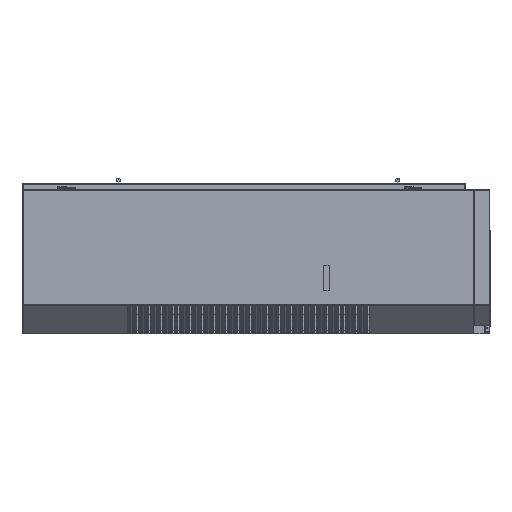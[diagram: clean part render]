
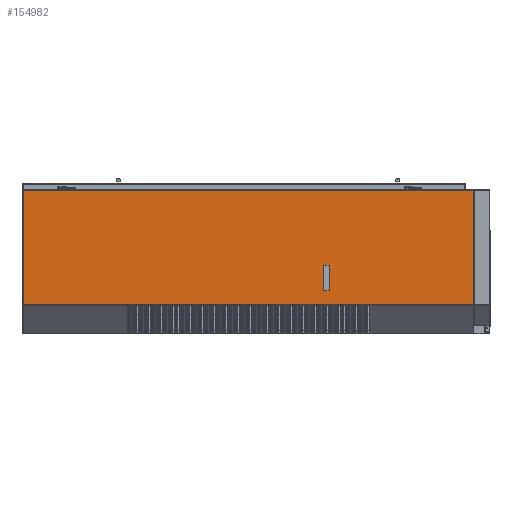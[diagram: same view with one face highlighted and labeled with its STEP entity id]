
A CAD part, left-side view. The second image highlights one B-rep face of the part: STEP entity #154982.
In plain terms, the highlighted planar face has unit normal (-1, 0, 0).
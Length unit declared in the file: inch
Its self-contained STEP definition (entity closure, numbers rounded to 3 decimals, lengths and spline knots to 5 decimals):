
#14002 = DIRECTION ( 'NONE',  ( 0., 0., -1. ) ) ;
#14996 = LINE ( 'NONE', #49438, #108985 ) ;
#39483 = DIRECTION ( 'NONE',  ( -1., 0., 0. ) ) ;
#42063 = ORIENTED_EDGE ( 'NONE', *, *, #160920, .T. ) ;
#44313 = VERTEX_POINT ( 'NONE', #195812 ) ;
#46002 = DIRECTION ( 'NONE',  ( 0., 0., 1. ) ) ;
#46203 = VECTOR ( 'NONE', #132507, 39.37008 ) ;
#48271 = ORIENTED_EDGE ( 'NONE', *, *, #130855, .T. ) ;
#49438 = CARTESIAN_POINT ( 'NONE',  ( -29.12152, 31.63841, -7.94025 ) ) ;
#51767 = EDGE_CURVE ( 'NONE', #216593, #130486, #83709, .T. ) ;
#52560 = DIRECTION ( 'NONE',  ( 0., 1., 0. ) ) ;
#58869 = CARTESIAN_POINT ( 'NONE',  ( -29.12152, 31.63841, -2.73025 ) ) ;
#59888 = VERTEX_POINT ( 'NONE', #234720 ) ;
#63653 = VERTEX_POINT ( 'NONE', #81656 ) ;
#65755 = CARTESIAN_POINT ( 'NONE',  ( -29.12152, 0.51228, 12.8418 ) ) ;
#69344 = VECTOR ( 'NONE', #46002, 39.37008 ) ;
#69800 = ORIENTED_EDGE ( 'NONE', *, *, #182950, .T. ) ;
#70010 = VERTEX_POINT ( 'NONE', #81605 ) ;
#74205 = DIRECTION ( 'NONE',  ( 0., 0., 1. ) ) ;
#76961 = EDGE_LOOP ( 'NONE', ( #185544, #42063, #69800, #182289 ) ) ;
#79016 = DIRECTION ( 'NONE',  ( 0., -1., 0. ) ) ;
#81605 = CARTESIAN_POINT ( 'NONE',  ( -29.12152, 0.51228, -10.94025 ) ) ;
#81656 = CARTESIAN_POINT ( 'NONE',  ( -29.12152, 30.42841, -2.73025 ) ) ;
#83203 = ORIENTED_EDGE ( 'NONE', *, *, #51767, .T. ) ;
#83709 = LINE ( 'NONE', #152350, #243662 ) ;
#92172 = CARTESIAN_POINT ( 'NONE',  ( -29.12152, -30.28071, -10.94025 ) ) ;
#93216 = VECTOR ( 'NONE', #74205, 39.37008 ) ;
#99464 = LINE ( 'NONE', #211429, #46203 ) ;
#108985 = VECTOR ( 'NONE', #210617, 39.37008 ) ;
#111581 = LINE ( 'NONE', #92172, #158506 ) ;
#112299 = DIRECTION ( 'NONE',  ( 0., -1., 0. ) ) ;
#114500 = CARTESIAN_POINT ( 'NONE',  ( -29.12152, 31.63841, -7.94025 ) ) ;
#115754 = EDGE_CURVE ( 'NONE', #70010, #216593, #235563, .T. ) ;
#130486 = VERTEX_POINT ( 'NONE', #180730 ) ;
#130855 = EDGE_CURVE ( 'NONE', #44313, #70010, #111581, .T. ) ;
#132507 = DIRECTION ( 'NONE',  ( 0., 0., -1. ) ) ;
#133858 = LINE ( 'NONE', #114500, #93216 ) ;
#134805 = CARTESIAN_POINT ( 'NONE',  ( -29.12152, 94.06194, -10.97499 ) ) ;
#136170 = LINE ( 'NONE', #58869, #255456 ) ;
#137312 = CARTESIAN_POINT ( 'NONE',  ( -29.12152, 31.63841, -7.94025 ) ) ;
#138676 = VECTOR ( 'NONE', #14002, 39.37008 ) ;
#144821 = EDGE_CURVE ( 'NONE', #63653, #59888, #99464, .T. ) ;
#144945 = LINE ( 'NONE', #134805, #138676 ) ;
#144949 = AXIS2_PLACEMENT_3D ( 'NONE', #159388, #39483, #179541 ) ;
#152350 = CARTESIAN_POINT ( 'NONE',  ( -29.12152, -30.28071, 12.8418 ) ) ;
#152633 = ORIENTED_EDGE ( 'NONE', *, *, #239329, .T. ) ;
#154982 = ADVANCED_FACE ( 'NONE', ( #246277, #186577 ), #198880, .T. ) ;
#158506 = VECTOR ( 'NONE', #112299, 39.37008 ) ;
#159388 = CARTESIAN_POINT ( 'NONE',  ( -29.12152, -30.28071, -10.97499 ) ) ;
#160920 = EDGE_CURVE ( 'NONE', #59888, #248372, #14996, .T. ) ;
#172183 = EDGE_CURVE ( 'NONE', #216640, #63653, #136170, .T. ) ;
#179541 = DIRECTION ( 'NONE',  ( 0., -1., 0. ) ) ;
#180730 = CARTESIAN_POINT ( 'NONE',  ( -29.12152, 94.06194, 12.8418 ) ) ;
#182289 = ORIENTED_EDGE ( 'NONE', *, *, #172183, .T. ) ;
#182950 = EDGE_CURVE ( 'NONE', #248372, #216640, #133858, .T. ) ;
#185544 = ORIENTED_EDGE ( 'NONE', *, *, #144821, .T. ) ;
#186085 = CARTESIAN_POINT ( 'NONE',  ( -29.12152, 0.51228, -10.97499 ) ) ;
#186577 = FACE_BOUND ( 'NONE', #76961, .T. ) ;
#195812 = CARTESIAN_POINT ( 'NONE',  ( -29.12152, 94.06194, -10.94025 ) ) ;
#198880 = PLANE ( 'NONE',  #144949 ) ;
#210617 = DIRECTION ( 'NONE',  ( 0., 1., 0. ) ) ;
#211429 = CARTESIAN_POINT ( 'NONE',  ( -29.12152, 30.42841, -7.94025 ) ) ;
#216593 = VERTEX_POINT ( 'NONE', #65755 ) ;
#216640 = VERTEX_POINT ( 'NONE', #226951 ) ;
#217631 = EDGE_LOOP ( 'NONE', ( #83203, #152633, #48271, #239850 ) ) ;
#226951 = CARTESIAN_POINT ( 'NONE',  ( -29.12152, 31.63841, -2.73025 ) ) ;
#234720 = CARTESIAN_POINT ( 'NONE',  ( -29.12152, 30.42841, -7.94025 ) ) ;
#235563 = LINE ( 'NONE', #186085, #69344 ) ;
#239329 = EDGE_CURVE ( 'NONE', #130486, #44313, #144945, .T. ) ;
#239850 = ORIENTED_EDGE ( 'NONE', *, *, #115754, .T. ) ;
#243662 = VECTOR ( 'NONE', #52560, 39.37008 ) ;
#246277 = FACE_OUTER_BOUND ( 'NONE', #217631, .T. ) ;
#248372 = VERTEX_POINT ( 'NONE', #137312 ) ;
#255456 = VECTOR ( 'NONE', #79016, 39.37008 ) ;
